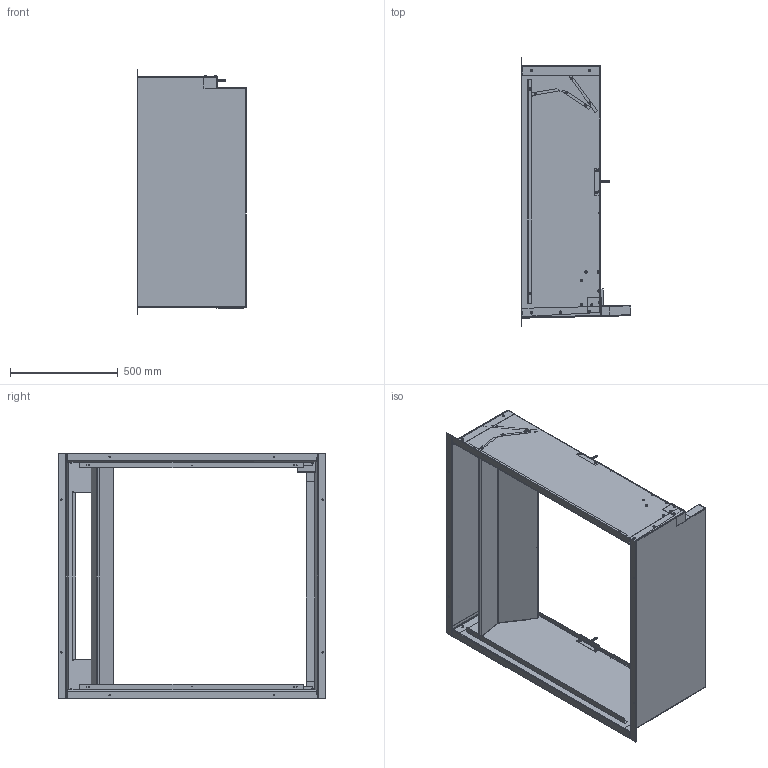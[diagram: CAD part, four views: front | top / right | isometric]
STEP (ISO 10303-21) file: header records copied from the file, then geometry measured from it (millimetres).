
FILE_DESCRIPTION (( 'STEP AP203' ), '1' );
FILE_NAME ('QWS48A.STEP', '2014-03-14T14:36:36', ( 'generic' ), ( 'Hewlett-Packard Company' ), 'SwSTEP 2.0', 'SolidWorks 2014', '' );
FILE_SCHEMA (( 'CONFIG_CONTROL_DESIGN' ));
Length unit declared in the file: inch
Products named in the file (13): 1012-086; 110-080; 1012-036; 136-450; QWS48A; 104-1060; 104-988; 130-128; 110-055; 120-322; 110-056; 136-404; 110-081
Assembly tree (48 placements, depth 2):
  QWS48A
    110-056
    110-081
    110-080
    136-450
    104-1060  x2
    104-988  x2
    130-128
    110-055
    120-322
    136-404
    1012-086  x34
    1012-036  x2
Bounding box: 510.76 x 1244.65 x 1140.39 mm (x, y, z)
Volume: 4204108.7 mm3; surface area: 5737060 mm2
Topology: 48 solids, 48 shells, 1722 faces, 3966 edges, 2376 vertices
Faces by surface type: plane 767, cylinder 543, cone 304, sphere 40, torus 40, bspline 28
Entity records: 31393 total; most frequent: CARTESIAN_POINT 6292, DIRECTION 5000, ORIENTED_EDGE 4522, EDGE_CURVE 2261, AXIS2_PLACEMENT_3D 1884, VERTEX_POINT 1342, LINE 1232, VECTOR 1232
